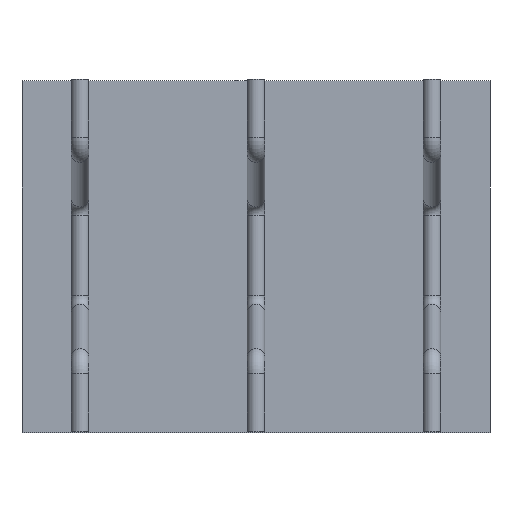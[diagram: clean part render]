
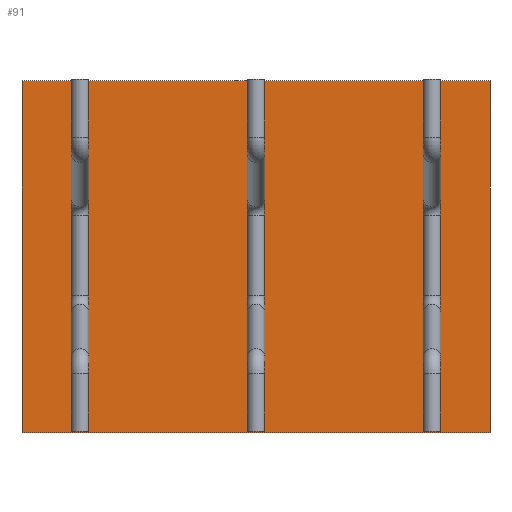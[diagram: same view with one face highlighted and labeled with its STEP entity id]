
A CAD part, top view. The second image highlights one B-rep face of the part: STEP entity #91.
In plain terms, the highlighted planar face has unit normal (0, 0, 1).
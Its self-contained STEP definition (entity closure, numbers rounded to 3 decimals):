
#52=CARTESIAN_POINT('Axis2P3D Location',(0.,0.,0.)) ;
#57=CARTESIAN_POINT('Line Origine',(0.,500.,0.)) ;
#61=CARTESIAN_POINT('Vertex',(665.,500.,0.)) ;
#63=CARTESIAN_POINT('Vertex',(-665.,500.,0.)) ;
#66=CARTESIAN_POINT('Line Origine',(-665.,0.,0.)) ;
#70=CARTESIAN_POINT('Vertex',(-665.,-500.,0.)) ;
#73=CARTESIAN_POINT('Line Origine',(0.,-500.,0.)) ;
#77=CARTESIAN_POINT('Vertex',(665.,-500.,0.)) ;
#80=CARTESIAN_POINT('Line Origine',(665.,0.,0.)) ;
#53=DIRECTION('Axis2P3D Direction',(0.,0.,1.)) ;
#54=DIRECTION('Axis2P3D XDirection',(1.,0.,0.)) ;
#58=DIRECTION('Vector Direction',(1.,0.,0.)) ;
#67=DIRECTION('Vector Direction',(0.,1.,0.)) ;
#74=DIRECTION('Vector Direction',(-1.,0.,0.)) ;
#81=DIRECTION('Vector Direction',(0.,-1.,0.)) ;
#55=AXIS2_PLACEMENT_3D('Plane Axis2P3D',#52,#53,#54) ;
#86=ORIENTED_EDGE('',*,*,#65,.T.) ;
#87=ORIENTED_EDGE('',*,*,#72,.T.) ;
#88=ORIENTED_EDGE('',*,*,#79,.T.) ;
#89=ORIENTED_EDGE('',*,*,#84,.T.) ;
#59=VECTOR('Line Direction',#58,1.) ;
#68=VECTOR('Line Direction',#67,1.) ;
#75=VECTOR('Line Direction',#74,1.) ;
#82=VECTOR('Line Direction',#81,1.) ;
#91=ADVANCED_FACE('Fill.1',(#90),#56,.T.) ;
#65=EDGE_CURVE('',#62,#64,#60,.F.) ;
#72=EDGE_CURVE('',#64,#71,#69,.F.) ;
#79=EDGE_CURVE('',#71,#78,#76,.F.) ;
#84=EDGE_CURVE('',#78,#62,#83,.F.) ;
#85=EDGE_LOOP('',(#86,#87,#88,#89)) ;
#90=FACE_OUTER_BOUND('',#85,.T.) ;
#60=LINE('Line',#57,#59) ;
#69=LINE('Line',#66,#68) ;
#76=LINE('Line',#73,#75) ;
#83=LINE('Line',#80,#82) ;
#56=PLANE('',#55) ;
#62=VERTEX_POINT('',#61) ;
#64=VERTEX_POINT('',#63) ;
#71=VERTEX_POINT('',#70) ;
#78=VERTEX_POINT('',#77) ;
